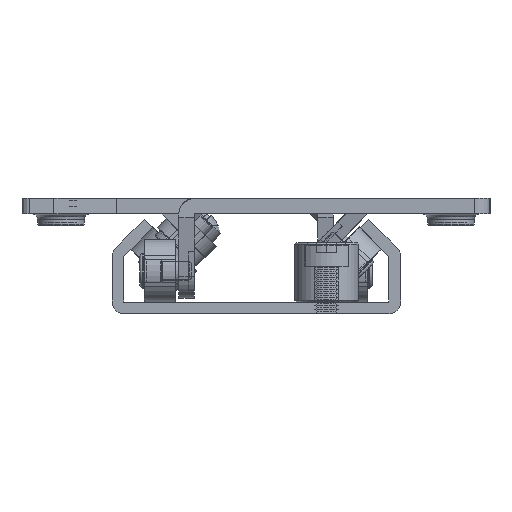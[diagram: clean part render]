
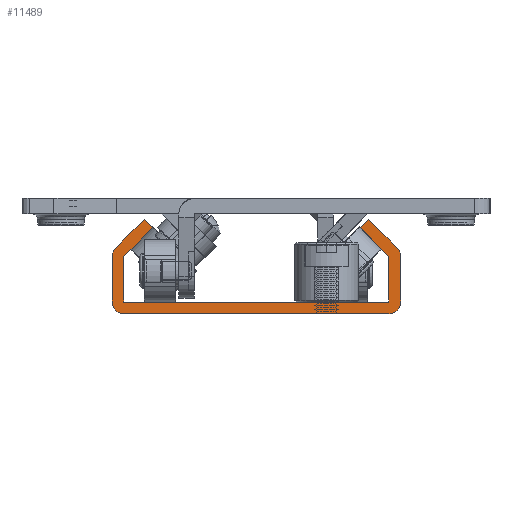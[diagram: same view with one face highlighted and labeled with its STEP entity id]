
A CAD part, left-side view. The second image highlights one B-rep face of the part: STEP entity #11489.
In plain terms, the highlighted planar face has unit normal (-1, 0, 0).
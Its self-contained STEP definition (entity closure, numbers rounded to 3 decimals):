
#11350=CARTESIAN_POINT('',(6.032,-861.972,-18.688));
#11351=VERTEX_POINT('',#11350);
#11352=CARTESIAN_POINT('',(6.032,-860.912,-17.627));
#11353=VERTEX_POINT('',#11352);
#11354=CARTESIAN_POINT('',(6.032,-860.823,-17.539));
#11355=DIRECTION('',(0.,0.707,0.707));
#11356=VECTOR('',#11355,1.);
#11357=LINE('',#11354,#11356);
#11358=EDGE_CURVE('',#11351,#11353,#11357,.T.);
#11359=ORIENTED_EDGE('',*,*,#11358,.T.);
#11360=CARTESIAN_POINT('',(6.032,-857.23,-21.309));
#11361=VERTEX_POINT('',#11360);
#11362=CARTESIAN_POINT('',(6.032,-861.124,-17.415));
#11363=DIRECTION('',(0.,-0.707,0.707));
#11364=VECTOR('',#11363,1.);
#11365=LINE('',#11362,#11364);
#11366=EDGE_CURVE('',#11361,#11353,#11365,.T.);
#11367=ORIENTED_EDGE('',*,*,#11366,.F.);
#11368=CARTESIAN_POINT('',(6.032,-856.79,-22.37));
#11369=VERTEX_POINT('',#11368);
#11370=CARTESIAN_POINT('',(6.032,-858.29,-22.37));
#11371=DIRECTION('',(1.,0.,0.));
#11372=DIRECTION('',(0.,0.,1.));
#11373=AXIS2_PLACEMENT_3D('',#11370,#11371,#11372);
#11374=CIRCLE('',#11373,1.5);
#11375=EDGE_CURVE('',#11369,#11361,#11374,.T.);
#11376=ORIENTED_EDGE('',*,*,#11375,.F.);
#11377=CARTESIAN_POINT('',(6.032,-856.79,-28.214));
#11378=VERTEX_POINT('',#11377);
#11379=CARTESIAN_POINT('',(6.032,-856.79,-28.214));
#11380=DIRECTION('',(0.,0.,1.));
#11381=VECTOR('',#11380,1.);
#11382=LINE('',#11379,#11381);
#11383=EDGE_CURVE('',#11378,#11369,#11382,.T.);
#11384=ORIENTED_EDGE('',*,*,#11383,.F.);
#11385=CARTESIAN_POINT('',(6.032,-858.29,-29.714));
#11386=VERTEX_POINT('',#11385);
#11387=CARTESIAN_POINT('',(6.032,-858.29,-28.214));
#11388=DIRECTION('',(1.,0.,0.));
#11389=DIRECTION('',(0.,1.,0.));
#11390=AXIS2_PLACEMENT_3D('',#11387,#11388,#11389);
#11391=CIRCLE('',#11390,1.5);
#11392=EDGE_CURVE('',#11386,#11378,#11391,.T.);
#11393=ORIENTED_EDGE('',*,*,#11392,.F.);
#11394=CARTESIAN_POINT('',(6.032,-892.29,-29.714));
#11395=VERTEX_POINT('',#11394);
#11396=CARTESIAN_POINT('',(6.032,-892.29,-29.714));
#11397=DIRECTION('',(0.,1.,0.));
#11398=VECTOR('',#11397,1.);
#11399=LINE('',#11396,#11398);
#11400=EDGE_CURVE('',#11395,#11386,#11399,.T.);
#11401=ORIENTED_EDGE('',*,*,#11400,.F.);
#11402=CARTESIAN_POINT('',(6.032,-893.79,-28.214));
#11403=VERTEX_POINT('',#11402);
#11404=CARTESIAN_POINT('',(6.032,-892.29,-28.214));
#11405=DIRECTION('',(1.,0.,0.));
#11406=DIRECTION('',(0.,1.,0.));
#11407=AXIS2_PLACEMENT_3D('',#11404,#11405,#11406);
#11408=CIRCLE('',#11407,1.5);
#11409=EDGE_CURVE('',#11403,#11395,#11408,.T.);
#11410=ORIENTED_EDGE('',*,*,#11409,.F.);
#11411=CARTESIAN_POINT('',(6.032,-893.79,-22.37));
#11412=VERTEX_POINT('',#11411);
#11413=CARTESIAN_POINT('',(6.032,-893.79,-28.214));
#11414=DIRECTION('',(0.,0.,-1.));
#11415=VECTOR('',#11414,1.);
#11416=LINE('',#11413,#11415);
#11417=EDGE_CURVE('',#11412,#11403,#11416,.T.);
#11418=ORIENTED_EDGE('',*,*,#11417,.F.);
#11419=CARTESIAN_POINT('',(6.032,-893.351,-21.309));
#11420=VERTEX_POINT('',#11419);
#11421=CARTESIAN_POINT('',(6.032,-892.29,-22.37));
#11422=DIRECTION('',(1.,0.,0.));
#11423=DIRECTION('',(0.,0.,1.));
#11424=AXIS2_PLACEMENT_3D('',#11421,#11422,#11423);
#11425=CIRCLE('',#11424,1.5);
#11426=EDGE_CURVE('',#11420,#11412,#11425,.T.);
#11427=ORIENTED_EDGE('',*,*,#11426,.F.);
#11428=CARTESIAN_POINT('',(6.032,-889.669,-17.627));
#11429=VERTEX_POINT('',#11428);
#11430=CARTESIAN_POINT('',(6.032,-889.457,-17.415));
#11431=DIRECTION('',(0.,-0.707,-0.707));
#11432=VECTOR('',#11431,1.);
#11433=LINE('',#11430,#11432);
#11434=EDGE_CURVE('',#11429,#11420,#11433,.T.);
#11435=ORIENTED_EDGE('',*,*,#11434,.F.);
#11436=CARTESIAN_POINT('',(6.032,-888.608,-18.688));
#11437=VERTEX_POINT('',#11436);
#11438=CARTESIAN_POINT('',(6.032,-882.939,-24.357));
#11439=DIRECTION('',(0.,0.707,-0.707));
#11440=VECTOR('',#11439,1.);
#11441=LINE('',#11438,#11440);
#11442=EDGE_CURVE('',#11429,#11437,#11441,.T.);
#11443=ORIENTED_EDGE('',*,*,#11442,.T.);
#11444=CARTESIAN_POINT('',(6.032,-892.29,-22.37));
#11445=VERTEX_POINT('',#11444);
#11446=CARTESIAN_POINT('',(6.032,-888.396,-18.475));
#11447=DIRECTION('',(0.,0.707,0.707));
#11448=VECTOR('',#11447,1.);
#11449=LINE('',#11446,#11448);
#11450=EDGE_CURVE('',#11445,#11437,#11449,.T.);
#11451=ORIENTED_EDGE('',*,*,#11450,.F.);
#11452=CARTESIAN_POINT('',(6.032,-892.29,-28.214));
#11453=VERTEX_POINT('',#11452);
#11454=CARTESIAN_POINT('',(6.032,-892.29,-28.214));
#11455=DIRECTION('',(0.,0.,1.));
#11456=VECTOR('',#11455,1.);
#11457=LINE('',#11454,#11456);
#11458=EDGE_CURVE('',#11453,#11445,#11457,.T.);
#11459=ORIENTED_EDGE('',*,*,#11458,.F.);
#11460=CARTESIAN_POINT('',(6.032,-858.29,-28.214));
#11461=VERTEX_POINT('',#11460);
#11462=CARTESIAN_POINT('',(6.032,-892.29,-28.214));
#11463=DIRECTION('',(0.,-1.,0.));
#11464=VECTOR('',#11463,1.);
#11465=LINE('',#11462,#11464);
#11466=EDGE_CURVE('',#11461,#11453,#11465,.T.);
#11467=ORIENTED_EDGE('',*,*,#11466,.F.);
#11468=CARTESIAN_POINT('',(6.032,-858.29,-22.37));
#11469=VERTEX_POINT('',#11468);
#11470=CARTESIAN_POINT('',(6.032,-858.29,-28.214));
#11471=DIRECTION('',(0.,0.,-1.));
#11472=VECTOR('',#11471,1.);
#11473=LINE('',#11470,#11472);
#11474=EDGE_CURVE('',#11469,#11461,#11473,.T.);
#11475=ORIENTED_EDGE('',*,*,#11474,.F.);
#11476=CARTESIAN_POINT('',(6.032,-862.184,-18.475));
#11477=DIRECTION('',(0.,0.707,-0.707));
#11478=VECTOR('',#11477,1.);
#11479=LINE('',#11476,#11478);
#11480=EDGE_CURVE('',#11351,#11469,#11479,.T.);
#11481=ORIENTED_EDGE('',*,*,#11480,.F.);
#11482=EDGE_LOOP('',(#11359,#11367,#11376,#11384,#11393,#11401,#11410,#11418,#11427,#11435,#11443,#11451,#11459,#11467,#11475,#11481));
#11483=FACE_OUTER_BOUND('',#11482,.T.);
#11484=CARTESIAN_POINT('',(6.032,-861.654,-17.945));
#11485=DIRECTION('',(-1.,0.,0.));
#11486=DIRECTION('',(0.,1.,0.));
#11487=AXIS2_PLACEMENT_3D('',#11484,#11485,#11486);
#11488=PLANE('',#11487);
#11489=ADVANCED_FACE('',(#11483),#11488,.T.);
